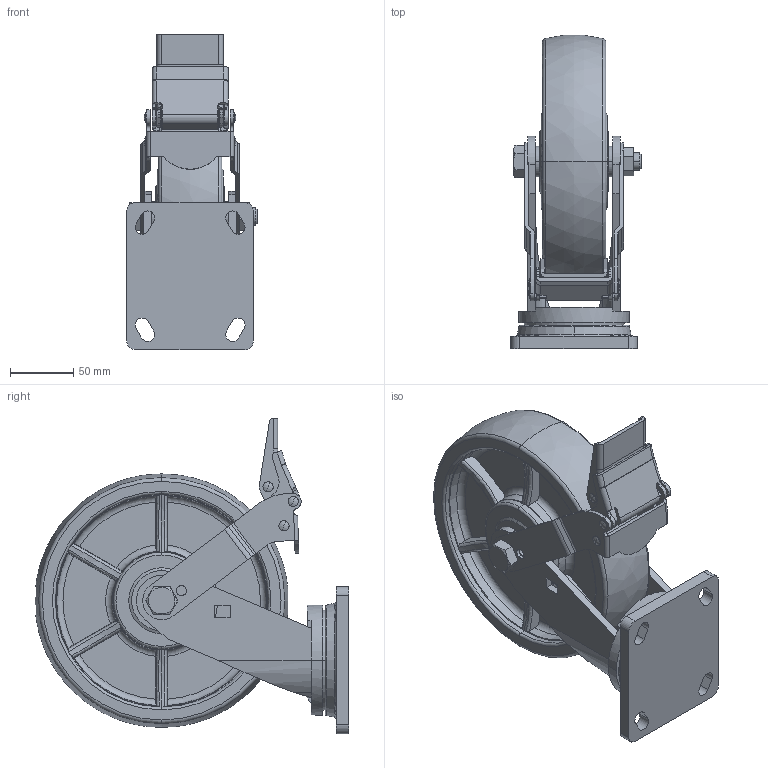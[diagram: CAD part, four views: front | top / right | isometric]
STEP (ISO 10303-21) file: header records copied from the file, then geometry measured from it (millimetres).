
FILE_DESCRIPTION((''),'2;1');
FILE_NAME('78128E-768-26_ASM','2020-07-08T',('lenovo'),(''),'PRO/ENGINEER BY PARAMETRIC TECHNOLOGY CORPORATION, 2010280','PRO/ENGINEER BY PARAMETRIC TECHNOLOGY CORPORATION, 2010280','');
FILE_SCHEMA(('CONFIG_CONTROL_DESIGN'));
Length unit declared in the file: millimetre
Products named in the file (15): PRODUCT_113350; PRT0195; PRT0196; PRT0197; PRT0198; 708E-17; PRODUCT_115958; PRT0199; 780F-33-; PRT0201; PRODUCT_66324; PRT0202; 78128E-768-26__________ASM_ASM; 78128E-768-26__ASM_ASM; 78128E-768-26_ASM
Assembly tree (18 placements, depth 4):
  78128E-768-26_ASM
    78128E-768-26__ASM_ASM
      78128E-768-26__________ASM_ASM
        PRODUCT_113350  x5
        PRT0195
        PRT0196
        PRT0197
        PRT0198
        708E-17
        PRODUCT_115958
        PRT0199
        780F-33-
        PRT0201
        PRODUCT_66324
        PRT0202
Bounding box: 103 x 247.17 x 248.91 mm (x, y, z)
Volume: 1312861.7 mm3; surface area: 253587.4 mm2
Topology: 16 solids, 16 shells, 522 faces, 1360 edges, 893 vertices
Faces by surface type: plane 200, cylinder 168, torus 56, cone 46, bspline 40, sphere 12
Entity records: 19439 total; most frequent: CARTESIAN_POINT 6613, DIRECTION 2640, ORIENTED_EDGE 2640, EDGE_CURVE 1320, AXIS2_PLACEMENT_3D 1049, VERTEX_POINT 865, EDGE_LOOP 581, VECTOR 542
